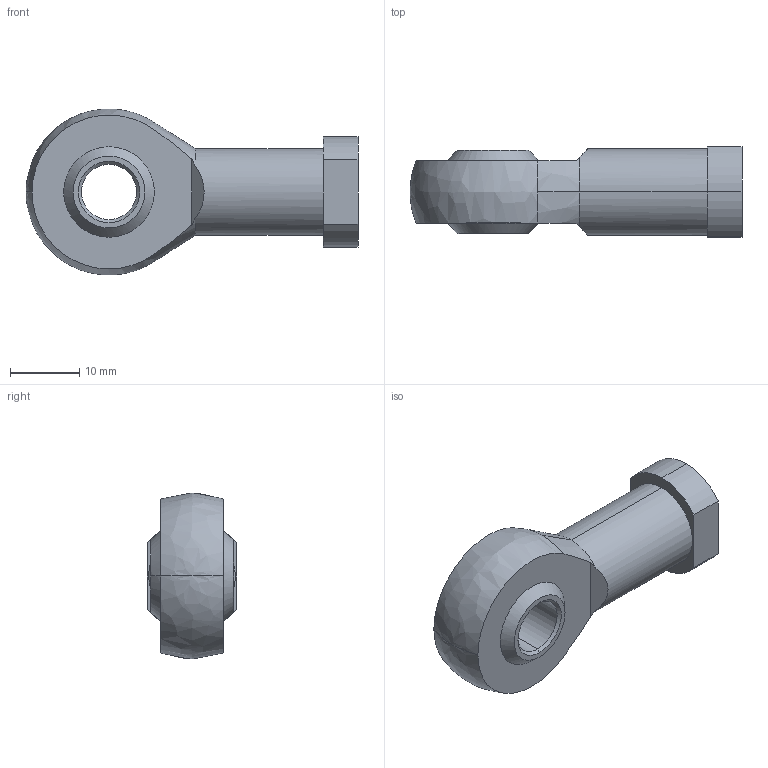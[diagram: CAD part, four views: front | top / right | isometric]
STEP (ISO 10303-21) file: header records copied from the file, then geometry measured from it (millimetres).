
FILE_DESCRIPTION (( 'STEP AP214' ), '1' );
FILE_NAME ('14.STK08ECO.STEP', '2017-10-28T13:19:42', ( '' ), ( '' ), 'SwSTEP 2.0', 'SolidWorks 2016', '' );
FILE_SCHEMA (( 'AUTOMOTIVE_DESIGN' ));
Length unit declared in the file: millimetre
Products named in the file (1): 14.STK08ECO
Bounding box: 48 x 13 x 24 mm (x, y, z)
Volume: 6284.1 mm3; surface area: 3281.6 mm2
Topology: 1 solids, 1 shells, 35 faces, 85 edges, 53 vertices
Faces by surface type: cone 11, plane 10, cylinder 9, bspline 5
Entity records: 1545 total; most frequent: CARTESIAN_POINT 743, ORIENTED_EDGE 162, DIRECTION 154, EDGE_CURVE 81, AXIS2_PLACEMENT_3D 64, VERTEX_POINT 53, EDGE_LOOP 42, ADVANCED_FACE 35
